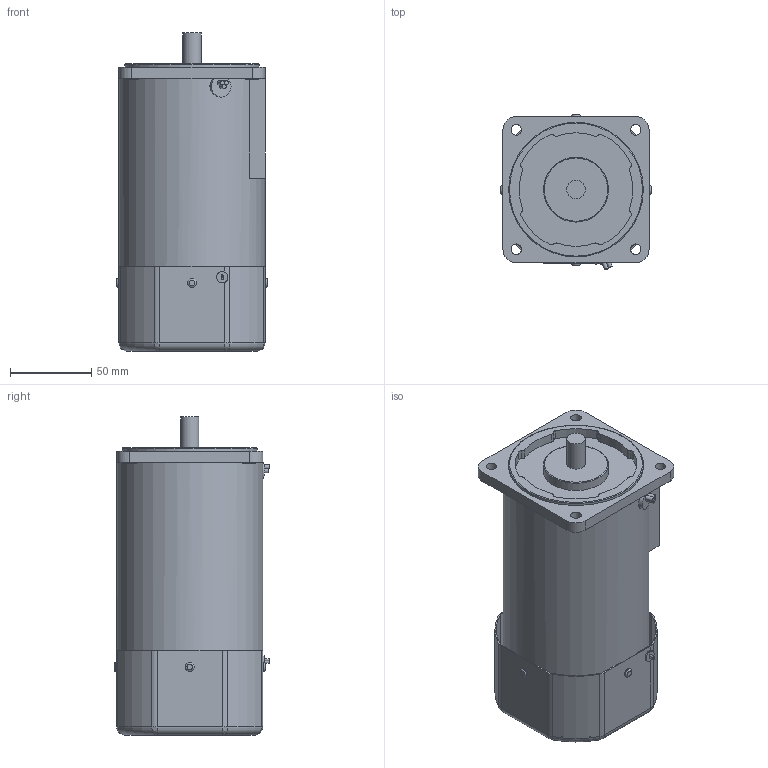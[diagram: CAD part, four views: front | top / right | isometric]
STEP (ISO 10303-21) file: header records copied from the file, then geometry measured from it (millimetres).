
FILE_DESCRIPTION((''),'2;1');
FILE_NAME('E:\2공장-도면\3D\표준형 3D(민규)\step file\SU,SP\K9IP120Fㅁ-Sㅁ.stp','2014-11-14T14:14:31',('AHN'),(''),'Autodesk Inventor 2012','Autodesk Inventor 2012','');
FILE_SCHEMA(('CONFIG_CONTROL_DESIGN'));
Length unit declared in the file: millimetre
Products named in the file (1): K9IP120Fㅁ-Sㅁ
Bounding box: 93 x 95.71 x 196 mm (x, y, z)
Volume: 1045598.5 mm3; surface area: 103971.8 mm2
Topology: 1 solids, 1 shells, 253 faces, 627 edges, 381 vertices
Faces by surface type: cylinder 127, plane 80, torus 38, bspline 8
Full cylindrical faces by diameter (mm): 1.4 x2, 5.5 x4, 6.5 x4, 7 x2, 8 x4, 11.3 x1, 40 x1, 83 x1, 90 x1
Entity records: 8149 total; most frequent: CARTESIAN_POINT 2121, DIRECTION 1299, ORIENTED_EDGE 1196, EDGE_CURVE 598, AXIS2_PLACEMENT_3D 514, VERTEX_POINT 376, EDGE_LOOP 324, VECTOR 271
